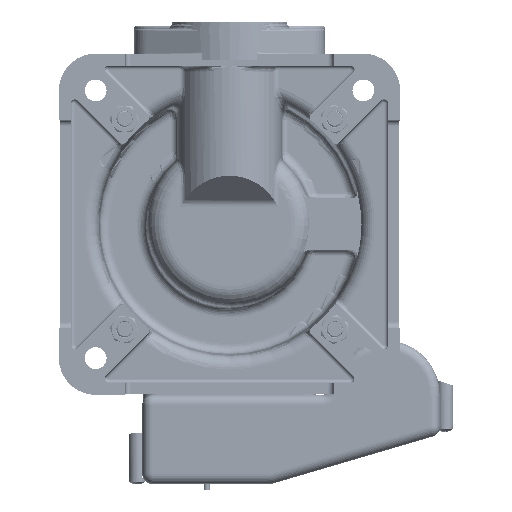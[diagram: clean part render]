
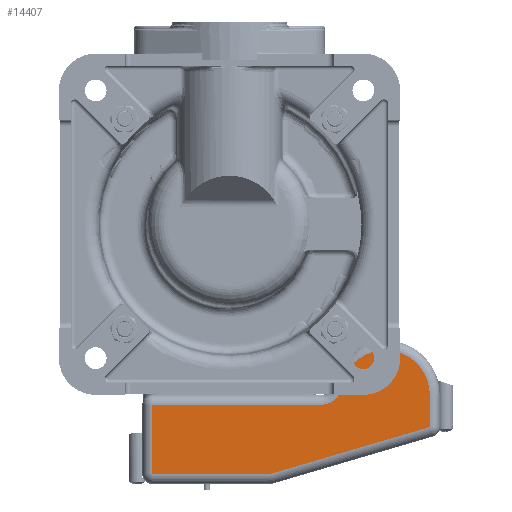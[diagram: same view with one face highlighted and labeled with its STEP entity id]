
A CAD part, front view. The second image highlights one B-rep face of the part: STEP entity #14407.
In plain terms, the highlighted planar face has unit normal (0, -1, 0).
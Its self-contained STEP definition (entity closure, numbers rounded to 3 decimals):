
#3545 = VECTOR ( 'NONE', #57427, 1000. ) ;
#4359 = CARTESIAN_POINT ( 'NONE',  ( 19.505, 32., -121. ) ) ;
#5987 = CARTESIAN_POINT ( 'NONE',  ( 46.387, 32., -91. ) ) ;
#6158 = DIRECTION ( 'NONE',  ( 1., 0., 0. ) ) ;
#6861 = EDGE_CURVE ( 'NONE', #83066, #154244, #184340, .T. ) ;
#10458 = LINE ( 'NONE', #197419, #3545 ) ;
#12286 = DIRECTION ( 'NONE',  ( 0., 0., -1. ) ) ;
#13907 = EDGE_CURVE ( 'NONE', #154244, #51619, #10458, .T. ) ;
#13988 = DIRECTION ( 'NONE',  ( 0., 1., 0. ) ) ;
#14407 = ADVANCED_FACE ( 'NONE', ( #168363 ), #78378, .F. ) ;
#23068 = AXIS2_PLACEMENT_3D ( 'NONE', #59958, #13988, #200955 ) ;
#23141 = CARTESIAN_POINT ( 'NONE',  ( -39., 32., -126. ) ) ;
#29448 = VECTOR ( 'NONE', #82753, 1000. ) ;
#29969 = ORIENTED_EDGE ( 'NONE', *, *, #82574, .T. ) ;
#35603 = ORIENTED_EDGE ( 'NONE', *, *, #6861, .T. ) ;
#35769 = DIRECTION ( 'NONE',  ( -1., 0., 0. ) ) ;
#36037 = DIRECTION ( 'NONE',  ( 0., -1., 0. ) ) ;
#41106 = VERTEX_POINT ( 'NONE', #68736 ) ;
#45167 = CARTESIAN_POINT ( 'NONE',  ( 78.5, 32., -86. ) ) ;
#45204 = VECTOR ( 'NONE', #35769, 1000. ) ;
#50104 = CARTESIAN_POINT ( 'NONE',  ( 46.387, 32., -81. ) ) ;
#50553 = AXIS2_PLACEMENT_3D ( 'NONE', #4359, #36037, #145419 ) ;
#51619 = VERTEX_POINT ( 'NONE', #188466 ) ;
#54277 = EDGE_CURVE ( 'NONE', #41106, #59496, #78802, .T. ) ;
#57427 = DIRECTION ( 'NONE',  ( 0.959, 0., 0.282 ) ) ;
#59481 = DIRECTION ( 'NONE',  ( 1., 0., 0. ) ) ;
#59496 = VERTEX_POINT ( 'NONE', #5987 ) ;
#59958 = CARTESIAN_POINT ( 'NONE',  ( 78.5, 32., -86. ) ) ;
#68736 = CARTESIAN_POINT ( 'NONE',  ( 56.268, 32., -82.538 ) ) ;
#68986 = ORIENTED_EDGE ( 'NONE', *, *, #54277, .T. ) ;
#75583 = LINE ( 'NONE', #181972, #162798 ) ;
#78278 = ORIENTED_EDGE ( 'NONE', *, *, #115009, .T. ) ;
#78378 = PLANE ( 'NONE',  #23068 ) ;
#78802 = CIRCLE ( 'NONE', #193022, 10. ) ;
#80319 = CARTESIAN_POINT ( 'NONE',  ( 101., 32., -86. ) ) ;
#81774 = LINE ( 'NONE', #110438, #29448 ) ;
#82308 = EDGE_LOOP ( 'NONE', ( #126102, #86627, #164323, #68986, #78278, #29969, #125893, #35603 ) ) ;
#82574 = EDGE_CURVE ( 'NONE', #104371, #178631, #75583, .T. ) ;
#82602 = VECTOR ( 'NONE', #89319, 1000. ) ;
#82753 = DIRECTION ( 'NONE',  ( 1., 0., 0. ) ) ;
#83066 = VERTEX_POINT ( 'NONE', #137756 ) ;
#86627 = ORIENTED_EDGE ( 'NONE', *, *, #197935, .T. ) ;
#89319 = DIRECTION ( 'NONE',  ( 0., 0., 1. ) ) ;
#104371 = VERTEX_POINT ( 'NONE', #128259 ) ;
#106184 = CARTESIAN_POINT ( 'NONE',  ( 20.916, 32., -125.797 ) ) ;
#110438 = CARTESIAN_POINT ( 'NONE',  ( 19.505, 32., -126. ) ) ;
#112529 = DIRECTION ( 'NONE',  ( 0., 1., 0. ) ) ;
#115009 = EDGE_CURVE ( 'NONE', #59496, #104371, #175826, .T. ) ;
#117418 = EDGE_CURVE ( 'NONE', #178631, #83066, #81774, .T. ) ;
#125893 = ORIENTED_EDGE ( 'NONE', *, *, #117418, .T. ) ;
#126102 = ORIENTED_EDGE ( 'NONE', *, *, #13907, .T. ) ;
#128259 = CARTESIAN_POINT ( 'NONE',  ( -39., 32., -91. ) ) ;
#134377 = CARTESIAN_POINT ( 'NONE',  ( 101., 32., -86. ) ) ;
#137756 = CARTESIAN_POINT ( 'NONE',  ( 19.505, 32., -126. ) ) ;
#145419 = DIRECTION ( 'NONE',  ( -1., 0., 0. ) ) ;
#150858 = CIRCLE ( 'NONE', #160643, 22.5 ) ;
#154244 = VERTEX_POINT ( 'NONE', #106184 ) ;
#156623 = DIRECTION ( 'NONE',  ( 0., -1., 0. ) ) ;
#160643 = AXIS2_PLACEMENT_3D ( 'NONE', #45167, #156623, #59481 ) ;
#162798 = VECTOR ( 'NONE', #12286, 1000. ) ;
#164323 = ORIENTED_EDGE ( 'NONE', *, *, #176229, .T. ) ;
#165051 = LINE ( 'NONE', #134377, #82602 ) ;
#166237 = VERTEX_POINT ( 'NONE', #80319 ) ;
#168363 = FACE_OUTER_BOUND ( 'NONE', #82308, .T. ) ;
#175826 = LINE ( 'NONE', #178811, #45204 ) ;
#176229 = EDGE_CURVE ( 'NONE', #166237, #41106, #150858, .T. ) ;
#178631 = VERTEX_POINT ( 'NONE', #23141 ) ;
#178811 = CARTESIAN_POINT ( 'NONE',  ( 78.5, 32., -91. ) ) ;
#181972 = CARTESIAN_POINT ( 'NONE',  ( -39., 32., -86. ) ) ;
#184340 = CIRCLE ( 'NONE', #50553, 5. ) ;
#188466 = CARTESIAN_POINT ( 'NONE',  ( 101., 32., -102.243 ) ) ;
#193022 = AXIS2_PLACEMENT_3D ( 'NONE', #50104, #112529, #6158 ) ;
#197419 = CARTESIAN_POINT ( 'NONE',  ( 99.589, 32., -102.658 ) ) ;
#197935 = EDGE_CURVE ( 'NONE', #51619, #166237, #165051, .T. ) ;
#200955 = DIRECTION ( 'NONE',  ( 1., 0., 0. ) ) ;
